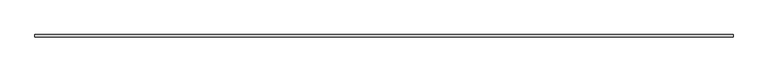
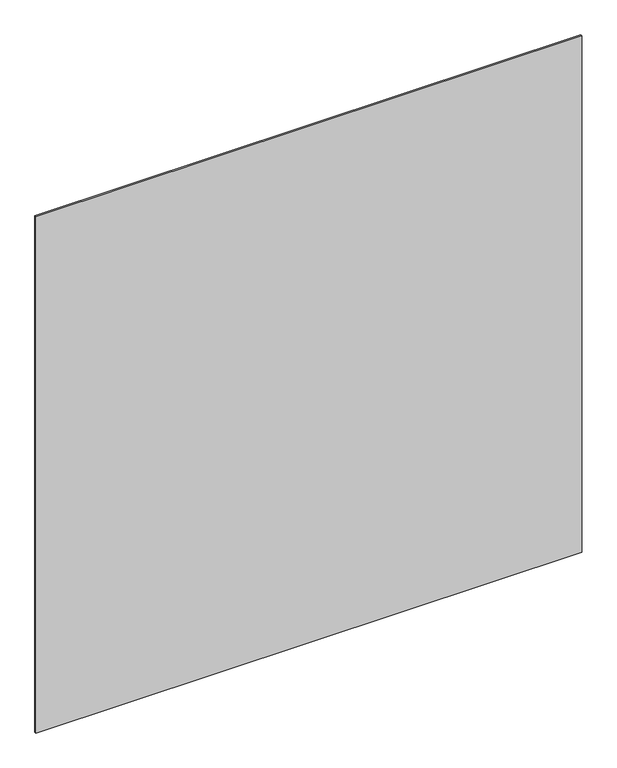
"""IFC4 building model written with IfcOpenShell, lengths in millimetres: proxy geometry."""

from ifc_helpers import new_model, si_unit, origin, origin_with_axes, place, context, project, spatial, polyline, outline, extrude, source, transform, mapped, element, save


def generic_models_83f6c85b(model_context):
    return source(origin(), model_context, "Body", "SweptSolid", [
        extrude(outline(polyline([(2940.0, 1978.2525449), (2940.0, 1968.2525449), (-60.0, 1968.2525449), (-60.0, 1978.2525449), (2940.0, 1978.2525449)])), origin_with_axes(), (0.0, 0.0, 1.0), 3000.0),
    ])


if __name__ == "__main__":
    model = new_model("IFC4")
    model_context = context("Model", 3, world=origin())
    ifc_project = project(units=[si_unit("LENGTHUNIT", "METRE", prefix="MILLI")], contexts=[model_context])
    site = spatial("IfcSite", under=ifc_project)
    building = spatial("IfcBuilding", under=site)
    placement = place(None, origin())
    generic_models_shape = generic_models_83f6c85b(model_context)
    element("IfcBuildingElementProxy", 1, Name="Generic Models", at=placement, inside=building, context=model_context, shape_type="MappedRepresentation", body=[
        mapped(generic_models_shape, transform((0.0, 0.0, 0.0), x_axis=(1.0, 0.0, 0.0), y_axis=(0.0, 1.0, 0.0), z_axis=(0.0, 0.0, 1.0))),
    ])
    save(model, "model.ifc")
